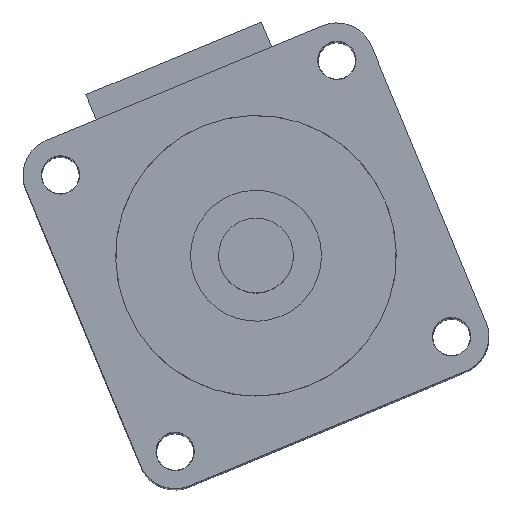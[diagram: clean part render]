
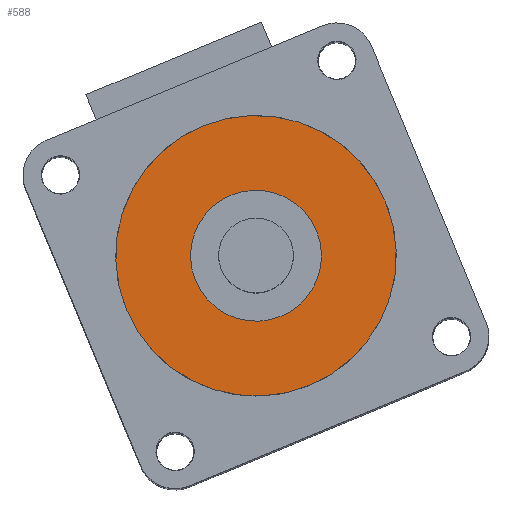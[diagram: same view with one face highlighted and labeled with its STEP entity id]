
A CAD part, top view. The second image highlights one B-rep face of the part: STEP entity #588.
In plain terms, the highlighted planar face has unit normal (0, 0, 1).
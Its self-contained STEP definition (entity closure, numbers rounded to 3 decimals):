
#7 = DIRECTION ( 'NONE',  ( 0., 0., 1. ) ) ;
#15 = AXIS2_PLACEMENT_3D ( 'NONE', #2040, #2524, #838 ) ;
#311 = ORIENTED_EDGE ( 'NONE', *, *, #356, .T. ) ;
#336 = FACE_OUTER_BOUND ( 'NONE', #506, .T. ) ;
#356 = EDGE_CURVE ( 'NONE', #1088, #809, #1096, .T. ) ;
#506 = EDGE_LOOP ( 'NONE', ( #2678, #311 ) ) ;
#509 = VERTEX_POINT ( 'NONE', #1961 ) ;
#588 = ADVANCED_FACE ( 'NONE', ( #2837, #336 ), #1318, .T. ) ;
#598 = DIRECTION ( 'NONE',  ( 1., 0., 0. ) ) ;
#716 = CIRCLE ( 'NONE', #1739, 7.5 ) ;
#809 = VERTEX_POINT ( 'NONE', #2721 ) ;
#813 = DIRECTION ( 'NONE',  ( 0., 0., 1. ) ) ;
#838 = DIRECTION ( 'NONE',  ( 1., 0., 0. ) ) ;
#853 = CARTESIAN_POINT ( 'NONE',  ( 0., 0., 6.5 ) ) ;
#881 = CARTESIAN_POINT ( 'NONE',  ( 0., 0., 6.5 ) ) ;
#904 = EDGE_CURVE ( 'NONE', #809, #1088, #716, .T. ) ;
#1088 = VERTEX_POINT ( 'NONE', #2320 ) ;
#1096 = CIRCLE ( 'NONE', #2732, 7.5 ) ;
#1226 = ORIENTED_EDGE ( 'NONE', *, *, #2690, .F. ) ;
#1318 = PLANE ( 'NONE',  #15 ) ;
#1462 = DIRECTION ( 'NONE',  ( 1., 0., 0. ) ) ;
#1680 = CIRCLE ( 'NONE', #1731, 3.5 ) ;
#1705 = CARTESIAN_POINT ( 'NONE',  ( 0., 0., 6.5 ) ) ;
#1731 = AXIS2_PLACEMENT_3D ( 'NONE', #2278, #813, #2650 ) ;
#1739 = AXIS2_PLACEMENT_3D ( 'NONE', #1705, #7, #1462 ) ;
#1844 = DIRECTION ( 'NONE',  ( 1., 0., 0. ) ) ;
#1948 = CARTESIAN_POINT ( 'NONE',  ( 3.5, 0., 6.5 ) ) ;
#1961 = CARTESIAN_POINT ( 'NONE',  ( -3.5, 0., 6.5 ) ) ;
#2040 = CARTESIAN_POINT ( 'NONE',  ( 0., 0., 6.5 ) ) ;
#2094 = DIRECTION ( 'NONE',  ( 0., 0., 1. ) ) ;
#2216 = AXIS2_PLACEMENT_3D ( 'NONE', #881, #2094, #1844 ) ;
#2278 = CARTESIAN_POINT ( 'NONE',  ( 0., 0., 6.5 ) ) ;
#2301 = DIRECTION ( 'NONE',  ( 0., 0., 1. ) ) ;
#2320 = CARTESIAN_POINT ( 'NONE',  ( 7.5, 0., 6.5 ) ) ;
#2362 = VERTEX_POINT ( 'NONE', #1948 ) ;
#2524 = DIRECTION ( 'NONE',  ( 0., 0., 1. ) ) ;
#2650 = DIRECTION ( 'NONE',  ( 1., 0., 0. ) ) ;
#2678 = ORIENTED_EDGE ( 'NONE', *, *, #904, .T. ) ;
#2690 = EDGE_CURVE ( 'NONE', #2362, #509, #1680, .T. ) ;
#2721 = CARTESIAN_POINT ( 'NONE',  ( -7.5, 0., 6.5 ) ) ;
#2732 = AXIS2_PLACEMENT_3D ( 'NONE', #853, #2301, #598 ) ;
#2750 = EDGE_CURVE ( 'NONE', #509, #2362, #2894, .T. ) ;
#2816 = EDGE_LOOP ( 'NONE', ( #1226, #3036 ) ) ;
#2837 = FACE_BOUND ( 'NONE', #2816, .T. ) ;
#2894 = CIRCLE ( 'NONE', #2216, 3.5 ) ;
#3036 = ORIENTED_EDGE ( 'NONE', *, *, #2750, .F. ) ;
